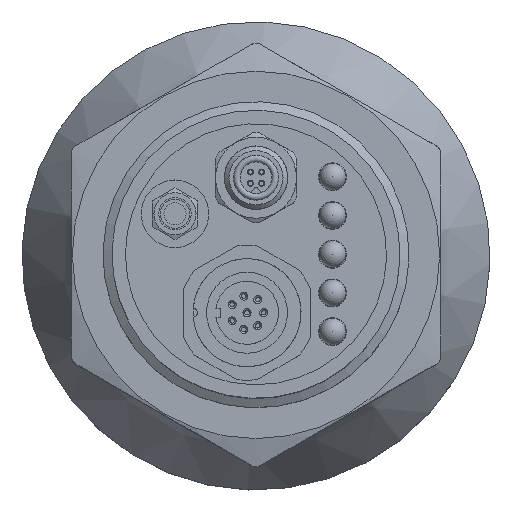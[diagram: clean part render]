
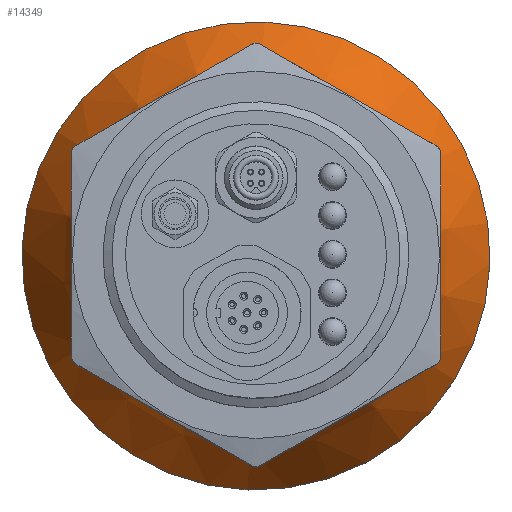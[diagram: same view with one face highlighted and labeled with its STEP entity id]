
A CAD part, top view. The second image highlights one B-rep face of the part: STEP entity #14349.
In plain terms, the highlighted conical face has half-angle 30 degrees and reference radius 21.5 mm.
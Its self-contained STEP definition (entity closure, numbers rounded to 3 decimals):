
#2830=CONICAL_SURFACE($,#15622,21.5,30.);
#3000=FACE_BOUND($,#4518,.T.);
#3623=FACE_OUTER_BOUND($,#4517,.T.);
#4517=EDGE_LOOP($,(#11681));
#4518=EDGE_LOOP($,(#11682));
#5281=CIRCLE($,#15606,17.);
#5289=CIRCLE($,#15620,26.);
#6476=VERTEX_POINT($,#24034);
#6484=VERTEX_POINT($,#24056);
#8297=EDGE_CURVE($,#6476,#6476,#5281,.T.);
#8305=EDGE_CURVE($,#6484,#6484,#5289,.T.);
#11681=ORIENTED_EDGE($,*,*,#8305,.F.);
#11682=ORIENTED_EDGE($,*,*,#8297,.T.);
#14349=ADVANCED_FACE($,(#3623,#3000),#2830,.T.);
#15606=AXIS2_PLACEMENT_3D($,#24035,#18743,#18744);
#15620=AXIS2_PLACEMENT_3D($,#24057,#18771,#18772);
#15622=AXIS2_PLACEMENT_3D($,#24059,#18775,#18776);
#18743=DIRECTION('center_axis',(0.,0.,
-1.));
#18744=DIRECTION('ref_axis',(0.374,0.928,0.));
#18771=DIRECTION('center_axis',(0.,0.,
-1.));
#18772=DIRECTION('ref_axis',(0.374,0.928,0.));
#18775=DIRECTION('center_axis',(0.,0.,
-1.));
#18776=DIRECTION('ref_axis',(0.374,0.928,0.));
#24034=CARTESIAN_POINT('',(6.354,15.768,17.004));
#24035=CARTESIAN_POINT('Origin',(0.,0.,
17.004));
#24056=CARTESIAN_POINT('',(9.717,24.116,1.415));
#24057=CARTESIAN_POINT('Origin',(0.,0.,
1.415));
#24059=CARTESIAN_POINT('Origin',(0.,0.,
9.21));
